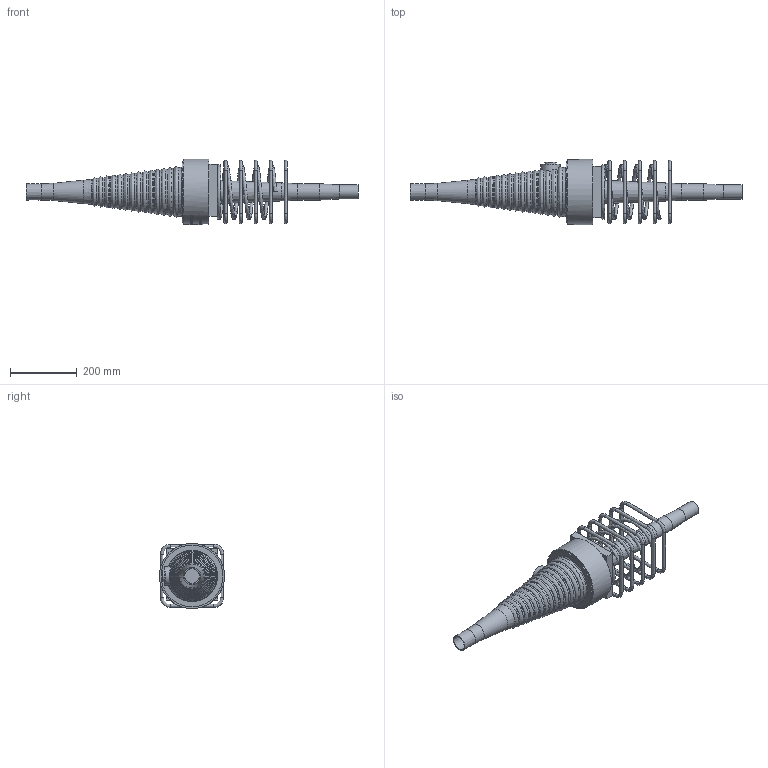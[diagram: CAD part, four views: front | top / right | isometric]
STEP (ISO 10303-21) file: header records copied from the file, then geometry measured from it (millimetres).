
FILE_DESCRIPTION(/* description */ (''),/* implementation_level */ '2;1');
FILE_NAME(/* name */ 'Z:\04 Publications\05 Give-out\BBR\6_3D_Models\BBR VT CONA CMI\BBR VT CONA CMI SP\00406\BBR VT CONA CMI SP 406_Couler K Assembly_CS-34,28.stp',/* time_stamp */ '2017-05-05T13:43:48+02:00',/* author */ ('IP'),/* organization */ (''),/* preprocessor_version */ 'ST-DEVELOPER v16.1',/* originating_system */ 'Autodesk Inventor 2016',/* authorisation */ '');
FILE_SCHEMA (('AUTOMOTIVE_DESIGN { 1 0 10303 214 3 1 1 }'));
Length unit declared in the file: millimetre
Products named in the file (1): BBR VT CONA CMI SP 406_Couler K Assembly_CS-34,28
Bounding box: 993.33 x 195 x 194.79 mm (x, y, z)
Volume: 4706927.7 mm3; surface area: 679045.4 mm2
Topology: 8 solids, 8 shells, 933 faces, 2374 edges, 1509 vertices
Faces by surface type: bspline 417, plane 261, torus 117, cylinder 89, cone 37, sphere 12
Full cylindrical faces by diameter (mm): 10 x20, 34.158 x1, 42 x1, 49 x1, 50 x1, 57 x1, 195 x1
Entity records: 39404 total; most frequent: CARTESIAN_POINT 19707, ORIENTED_EDGE 4420, DIRECTION 2917, EDGE_CURVE 2208, VERTEX_POINT 1501, EDGE_LOOP 1156, AXIS2_PLACEMENT_3D 1026, FACE_OUTER_BOUND 933
